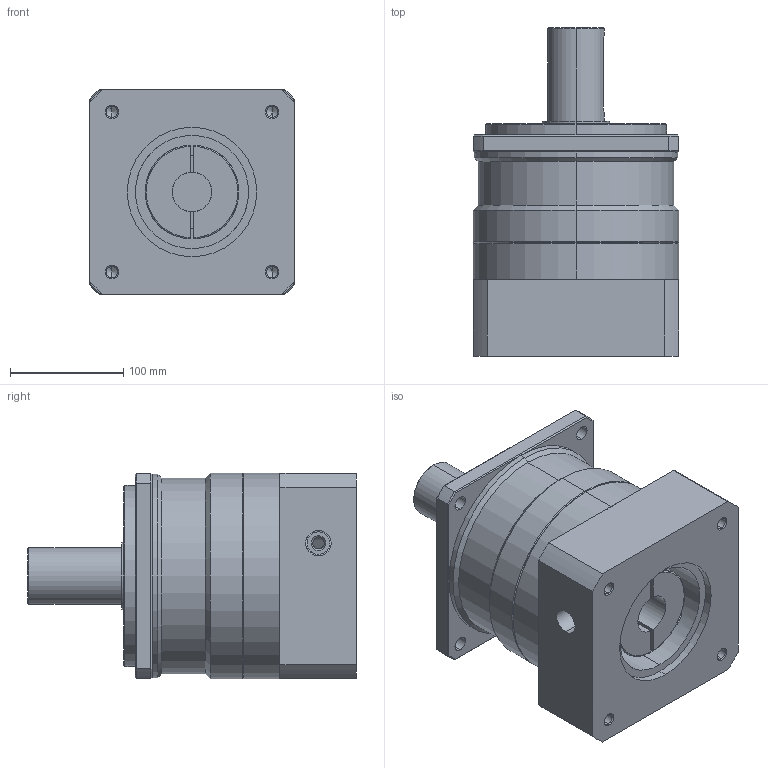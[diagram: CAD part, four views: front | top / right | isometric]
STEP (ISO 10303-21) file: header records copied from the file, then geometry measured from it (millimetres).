
FILE_DESCRIPTION (( 'STEP AP203' ), '1' );
FILE_NAME ('MF180X-L1£r114PCD£r200M12.STEP', '2014-04-16T05:52:12', ( 'KELLY' ), ( '' ), 'SwSTEP 2.0', 'SolidWorks 2012', '' );
FILE_SCHEMA (( 'CONFIG_CONTROL_DESIGN' ));
Length unit declared in the file: millimetre
Products named in the file (1): MF180X-L1｣r114PCD｣r200M12
Bounding box: 182 x 290.5 x 182 mm (x, y, z)
Volume: 5361339.3 mm3; surface area: 347178.4 mm2
Topology: 2 solids, 2 shells, 164 faces, 386 edges, 231 vertices
Faces by surface type: cylinder 68, cone 46, plane 46, torus 4
Entity records: 5415 total; most frequent: CARTESIAN_POINT 1532, DIRECTION 836, ORIENTED_EDGE 752, EDGE_CURVE 376, AXIS2_PLACEMENT_3D 333, VERTEX_POINT 231, EDGE_LOOP 199, LINE 170
